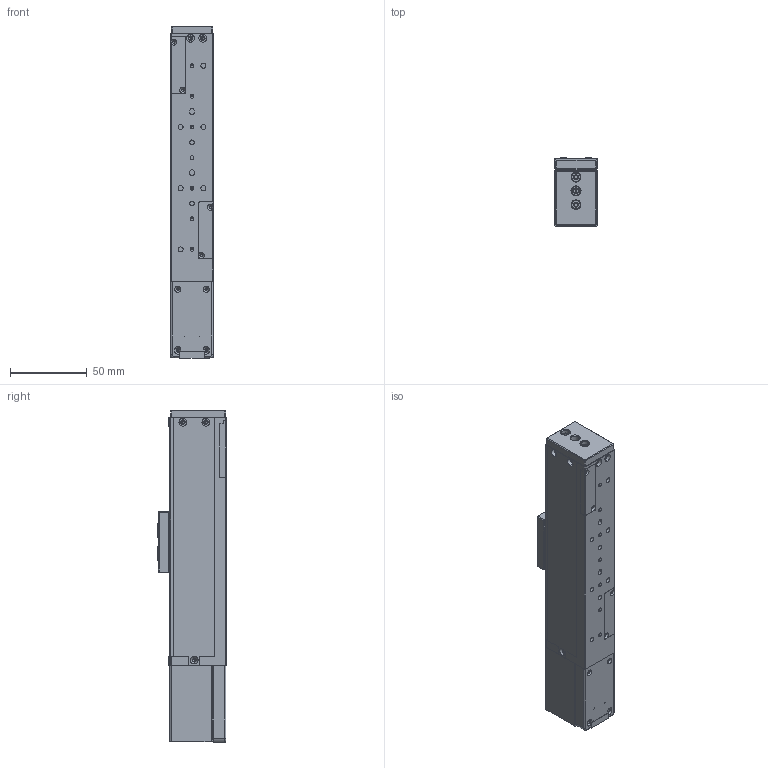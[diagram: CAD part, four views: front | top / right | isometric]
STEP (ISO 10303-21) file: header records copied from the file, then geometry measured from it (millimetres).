
FILE_DESCRIPTION (( 'STEP AP203' ), '1' );
FILE_NAME ('EMF28A51-B02P100.STEP', '2024-03-06T03:00:27', ( '' ), ( '' ), 'SwSTEP 2.0', 'SolidWorks 2023', '' );
FILE_SCHEMA (( 'CONFIG_CONTROL_DESIGN' ));
Length unit declared in the file: millimetre
Products named in the file (25): 28-42后导光片; 28防尘盖板; 28防尘安装板; 28光电分体轴承座; 28A50端子罩; 28滚轮; 28-100光电滑台分体基座; EMF28A51-B02P100; 28-42前导光片; 28-100防尘钢带; 28防尘钢带压片; 28-100分体侧板; 防撞牛筋柱3-6; MGN9C滑块; 28防尘安装板组件; 28轴承调节板; JFM-0405-06; 28-100防尘钢带底板; 0602滚珠螺母; 1-20滚针; 28防尘安装座; 28A51-GZ0602-162电机; 28-42光电传感器; 28-42端子线路板; MGN9C-146滑轨
Assembly tree (30 placements, depth 3):
  EMF28A51-B02P100
    28-100光电滑台分体基座
    防撞牛筋柱3-6  x2
    MGN9C-146滑轨
    MGN9C滑块
    0602滚珠螺母
    28A51-GZ0602-162电机
    28-42光电传感器  x2
    28-42前导光片
    28-42后导光片
    28光电分体轴承座
    28轴承调节板
    28-100分体侧板  x2
    JFM-0405-06
    28A50端子罩
    28-42端子线路板
    28-100防尘钢带底板
    28防尘安装座
    28-100防尘钢带
    28防尘钢带压片  x2
    28防尘安装板组件
      28防尘安装板
      1-20滚针  x2
      28滚轮  x2
    28防尘盖板
Bounding box: 28 x 45 x 217 mm (x, y, z)
Volume: 138249 mm3; surface area: 95398 mm2
Topology: 29 solids, 29 shells, 1336 faces, 3628 edges, 2323 vertices
Faces by surface type: cylinder 704, plane 497, cone 118, torus 9, bspline 8
Entity records: 61629 total; most frequent: CARTESIAN_POINT 27123, ORIENTED_EDGE 6742, DIRECTION 6586, EDGE_CURVE 3371, AXIS2_PLACEMENT_3D 2367, VERTEX_POINT 2191, VECTOR 1852, LINE 1852
